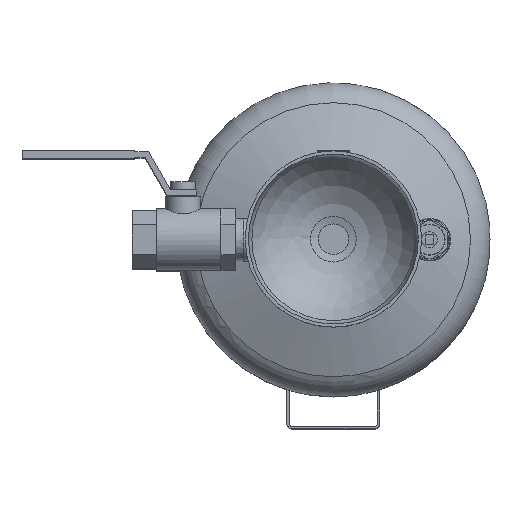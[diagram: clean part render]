
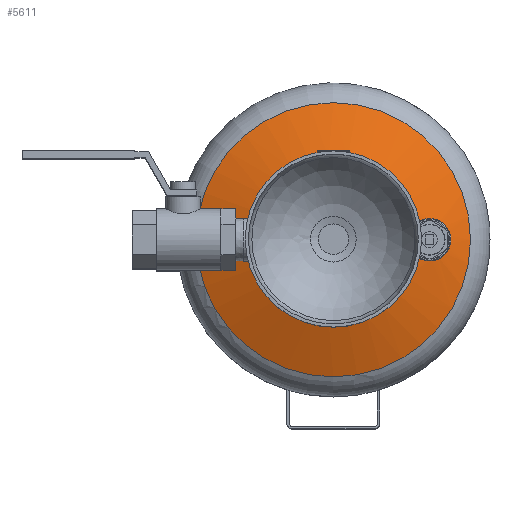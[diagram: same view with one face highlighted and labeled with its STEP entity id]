
A CAD part, top view. The second image highlights one B-rep face of the part: STEP entity #5611.
In plain terms, the highlighted spherical face has radius 200 mm.
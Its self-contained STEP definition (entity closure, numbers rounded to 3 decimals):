
#17=SPHERICAL_SURFACE('',#6209,200.);
#84=FACE_BOUND('',#971,.T.);
#116=B_SPLINE_CURVE_WITH_KNOTS('',3,(#8892,#8893,#8894,#8895,#8896,#8897,
#8898,#8899,#8900,#8901,#8902,#8903,#8904,#8905,#8906,#8907,#8908,#8909),
 .UNSPECIFIED.,.F.,.F.,(4,2,2,2,2,2,2,2,4),(0.,0.498,0.996,
1.52,2.044,2.569,3.094,3.592,
4.09),.UNSPECIFIED.);
#117=B_SPLINE_CURVE_WITH_KNOTS('',3,(#8910,#8911,#8912,#8913,#8914,#8915,
#8916,#8917,#8918,#8919,#8920,#8921,#8922,#8923,#8924,#8925,#8926,#8927),
 .UNSPECIFIED.,.F.,.F.,(4,2,2,2,2,2,2,2,4),(4.09,4.588,
5.086,5.611,6.136,6.661,7.185,
7.683,8.181),.UNSPECIFIED.);
#615=FACE_OUTER_BOUND('',#970,.T.);
#970=EDGE_LOOP('',(#5020,#5021,#5022,#5023,#5024,#5025));
#971=EDGE_LOOP('',(#5026,#5027));
#1978=CIRCLE('',#5697,85.522);
#1979=CIRCLE('',#5698,85.522);
#2227=CIRCLE('',#6210,15.068);
#2228=CIRCLE('',#6211,15.068);
#2229=CIRCLE('',#6212,200.);
#2306=VERTEX_POINT('',#8128);
#2307=VERTEX_POINT('',#8129);
#2501=VERTEX_POINT('',#8890);
#2502=VERTEX_POINT('',#8891);
#2751=VERTEX_POINT('',#9698);
#2752=VERTEX_POINT('',#9699);
#2871=EDGE_CURVE('',#2306,#2307,#1978,.T.);
#2872=EDGE_CURVE('',#2307,#2306,#1979,.T.);
#3156=EDGE_CURVE('',#2501,#2502,#116,.T.);
#3157=EDGE_CURVE('',#2502,#2501,#117,.T.);
#3526=EDGE_CURVE('',#2751,#2752,#2227,.T.);
#3527=EDGE_CURVE('',#2752,#2751,#2228,.T.);
#3528=EDGE_CURVE('',#2752,#2307,#2229,.T.);
#5020=ORIENTED_EDGE('',*,*,#3526,.F.);
#5021=ORIENTED_EDGE('',*,*,#3527,.F.);
#5022=ORIENTED_EDGE('',*,*,#3528,.T.);
#5023=ORIENTED_EDGE('',*,*,#2872,.T.);
#5024=ORIENTED_EDGE('',*,*,#2871,.T.);
#5025=ORIENTED_EDGE('',*,*,#3528,.F.);
#5026=ORIENTED_EDGE('',*,*,#3156,.T.);
#5027=ORIENTED_EDGE('',*,*,#3157,.T.);
#5611=ADVANCED_FACE('',(#615,#84),#17,.T.);
#5697=AXIS2_PLACEMENT_3D('',#8130,#6389,#6390);
#5698=AXIS2_PLACEMENT_3D('',#8131,#6391,#6392);
#6209=AXIS2_PLACEMENT_3D('',#9697,#7797,#7798);
#6210=AXIS2_PLACEMENT_3D('',#9700,#7799,#7800);
#6211=AXIS2_PLACEMENT_3D('',#9701,#7801,#7802);
#6212=AXIS2_PLACEMENT_3D('',#9702,#7803,#7804);
#6389=DIRECTION('center_axis',(0.,0.,1.));
#6390=DIRECTION('ref_axis',(1.,0.,0.));
#6391=DIRECTION('center_axis',(0.,0.,1.));
#6392=DIRECTION('ref_axis',(1.,0.,0.));
#7797=DIRECTION('center_axis',(0.,0.,1.));
#7798=DIRECTION('ref_axis',(1.,0.,0.));
#7799=DIRECTION('center_axis',(0.,0.,1.));
#7800=DIRECTION('ref_axis',(1.,0.,0.));
#7801=DIRECTION('center_axis',(0.,0.,1.));
#7802=DIRECTION('ref_axis',(1.,0.,0.));
#7803=DIRECTION('center_axis',(0.,-1.,0.));
#7804=DIRECTION('ref_axis',(-1.,0.,0.));
#8128=CARTESIAN_POINT('',(85.522,0.,272.274));
#8129=CARTESIAN_POINT('',(-85.522,0.,272.274));
#8130=CARTESIAN_POINT('Origin',(0.,0.,272.274));
#8131=CARTESIAN_POINT('Origin',(0.,0.,272.274));
#8890=CARTESIAN_POINT('',(46.75,0.,285.941));
#8891=CARTESIAN_POINT('',(73.25,0.,277.585));
#8892=CARTESIAN_POINT('Ctrl Pts',(46.75,0.,
285.941));
#8893=CARTESIAN_POINT('Ctrl Pts',(46.75,1.66,285.941));
#8894=CARTESIAN_POINT('Ctrl Pts',(47.081,3.424,285.839));
#8895=CARTESIAN_POINT('Ctrl Pts',(48.411,6.657,285.428));
#8896=CARTESIAN_POINT('Ctrl Pts',(49.41,8.126,285.119));
#8897=CARTESIAN_POINT('Ctrl Pts',(51.742,10.502,284.395));
#8898=CARTESIAN_POINT('Ctrl Pts',(53.254,11.543,283.924));
#8899=CARTESIAN_POINT('Ctrl Pts',(56.549,12.917,282.894));
#8900=CARTESIAN_POINT('Ctrl Pts',(58.333,13.25,282.334));
#8901=CARTESIAN_POINT('Ctrl Pts',(61.669,13.25,281.282));
#8902=CARTESIAN_POINT('Ctrl Pts',(63.454,12.916,280.717));
#8903=CARTESIAN_POINT('Ctrl Pts',(66.751,11.54,279.669));
#8904=CARTESIAN_POINT('Ctrl Pts',(68.262,10.499,279.186));
#8905=CARTESIAN_POINT('Ctrl Pts',(70.592,8.124,278.44));
#8906=CARTESIAN_POINT('Ctrl Pts',(71.589,6.656,278.119));
#8907=CARTESIAN_POINT('Ctrl Pts',(72.919,3.424,277.692));
#8908=CARTESIAN_POINT('Ctrl Pts',(73.25,1.66,277.585));
#8909=CARTESIAN_POINT('Ctrl Pts',(73.25,0.,277.585));
#8910=CARTESIAN_POINT('Ctrl Pts',(73.25,0.,
277.585));
#8911=CARTESIAN_POINT('Ctrl Pts',(73.25,-1.66,277.585));
#8912=CARTESIAN_POINT('Ctrl Pts',(72.919,-3.424,277.692));
#8913=CARTESIAN_POINT('Ctrl Pts',(71.589,-6.656,278.119));
#8914=CARTESIAN_POINT('Ctrl Pts',(70.592,-8.124,278.44));
#8915=CARTESIAN_POINT('Ctrl Pts',(68.262,-10.499,279.186));
#8916=CARTESIAN_POINT('Ctrl Pts',(66.751,-11.54,279.669));
#8917=CARTESIAN_POINT('Ctrl Pts',(63.454,-12.916,280.717));
#8918=CARTESIAN_POINT('Ctrl Pts',(61.669,-13.25,281.282));
#8919=CARTESIAN_POINT('Ctrl Pts',(58.333,-13.25,282.334));
#8920=CARTESIAN_POINT('Ctrl Pts',(56.549,-12.917,282.894));
#8921=CARTESIAN_POINT('Ctrl Pts',(53.254,-11.543,283.924));
#8922=CARTESIAN_POINT('Ctrl Pts',(51.742,-10.502,284.395));
#8923=CARTESIAN_POINT('Ctrl Pts',(49.41,-8.126,285.119));
#8924=CARTESIAN_POINT('Ctrl Pts',(48.411,-6.657,285.428));
#8925=CARTESIAN_POINT('Ctrl Pts',(47.081,-3.424,285.839));
#8926=CARTESIAN_POINT('Ctrl Pts',(46.75,-1.66,285.941));
#8927=CARTESIAN_POINT('Ctrl Pts',(46.75,0.,
285.941));
#9697=CARTESIAN_POINT('Origin',(0.,0.,91.481));
#9698=CARTESIAN_POINT('',(15.068,0.,290.913));
#9699=CARTESIAN_POINT('',(-15.068,0.,290.913));
#9700=CARTESIAN_POINT('Origin',(0.,0.,290.913));
#9701=CARTESIAN_POINT('Origin',(0.,0.,290.913));
#9702=CARTESIAN_POINT('Origin',(0.,0.,91.481));
